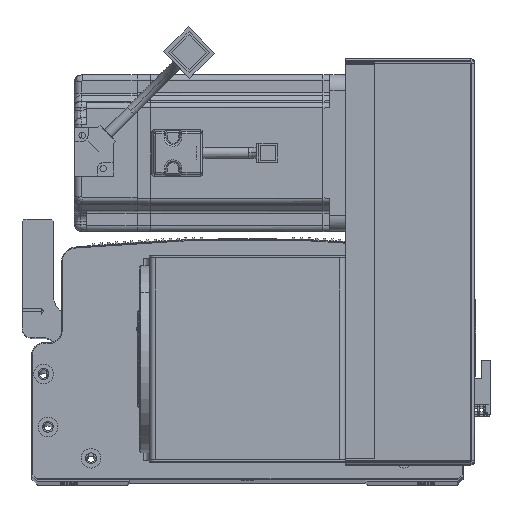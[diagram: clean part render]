
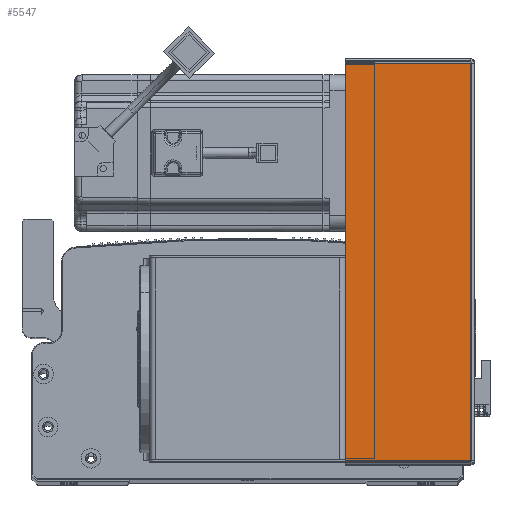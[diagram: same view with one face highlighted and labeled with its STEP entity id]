
A CAD part, top view. The second image highlights one B-rep face of the part: STEP entity #5547.
In plain terms, the highlighted planar face has unit normal (0, 0, 1) as drawn and (0, -1, 0) by its records, which use the part's own axes.
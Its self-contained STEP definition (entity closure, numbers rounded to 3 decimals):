
#1279 = CARTESIAN_POINT ( 'NONE',  ( 0.737, -1.5, -0.707 ) ) ;
#5547 = ADVANCED_FACE ( 'NONE', ( #12625 ), #51248, .F. ) ;
#5605 = ORIENTED_EDGE ( 'NONE', *, *, #45939, .F. ) ;
#6021 = VERTEX_POINT ( 'NONE', #84213 ) ;
#8012 = DIRECTION ( 'NONE',  ( 1., 0., 0. ) ) ;
#12625 = FACE_OUTER_BOUND ( 'NONE', #29131, .T. ) ;
#17147 = LINE ( 'NONE', #43354, #70701 ) ;
#20055 = CARTESIAN_POINT ( 'NONE',  ( 0., -1.5, -203.293 ) ) ;
#20491 = VECTOR ( 'NONE', #70024, 1000. ) ;
#20962 = LINE ( 'NONE', #73653, #76531 ) ;
#21790 = VECTOR ( 'NONE', #59512, 1000. ) ;
#24016 = CARTESIAN_POINT ( 'NONE',  ( 0.737, -1.5, 0. ) ) ;
#25974 = ORIENTED_EDGE ( 'NONE', *, *, #60510, .T. ) ;
#29131 = EDGE_LOOP ( 'NONE', ( #81192, #55978, #25974, #5605 ) ) ;
#29222 = CARTESIAN_POINT ( 'NONE',  ( 64.5, -1.5, -0.707 ) ) ;
#30080 = LINE ( 'NONE', #20055, #21790 ) ;
#30668 = AXIS2_PLACEMENT_3D ( 'NONE', #38316, #38593, #71320 ) ;
#38316 = CARTESIAN_POINT ( 'NONE',  ( 0., -1.5, 0. ) ) ;
#38593 = DIRECTION ( 'NONE',  ( 0., 1., 0. ) ) ;
#43254 = VERTEX_POINT ( 'NONE', #29222 ) ;
#43354 = CARTESIAN_POINT ( 'NONE',  ( 64.5, -1.5, 0. ) ) ;
#45939 = EDGE_CURVE ( 'NONE', #48082, #43254, #20962, .T. ) ;
#48082 = VERTEX_POINT ( 'NONE', #1279 ) ;
#51248 = PLANE ( 'NONE',  #30668 ) ;
#54486 = LINE ( 'NONE', #24016, #20491 ) ;
#55978 = ORIENTED_EDGE ( 'NONE', *, *, #74054, .T. ) ;
#59512 = DIRECTION ( 'NONE',  ( 1., 0., 0. ) ) ;
#60510 = EDGE_CURVE ( 'NONE', #6021, #43254, #17147, .T. ) ;
#66779 = EDGE_CURVE ( 'NONE', #70519, #48082, #54486, .T. ) ;
#69759 = DIRECTION ( 'NONE',  ( 0., 0., 1. ) ) ;
#70024 = DIRECTION ( 'NONE',  ( 0., 0., 1. ) ) ;
#70519 = VERTEX_POINT ( 'NONE', #79367 ) ;
#70701 = VECTOR ( 'NONE', #69759, 1000. ) ;
#71320 = DIRECTION ( 'NONE',  ( -1., 0., 0. ) ) ;
#73653 = CARTESIAN_POINT ( 'NONE',  ( 0., -1.5, -0.707 ) ) ;
#74054 = EDGE_CURVE ( 'NONE', #70519, #6021, #30080, .T. ) ;
#76531 = VECTOR ( 'NONE', #8012, 1000. ) ;
#79367 = CARTESIAN_POINT ( 'NONE',  ( 0.737, -1.5, -203.293 ) ) ;
#81192 = ORIENTED_EDGE ( 'NONE', *, *, #66779, .F. ) ;
#84213 = CARTESIAN_POINT ( 'NONE',  ( 64.5, -1.5, -203.293 ) ) ;
